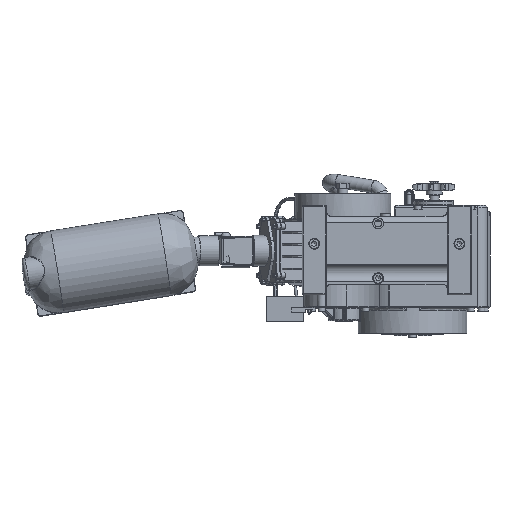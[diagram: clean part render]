
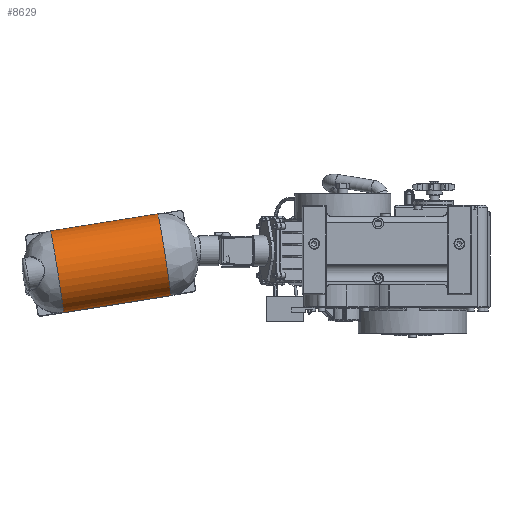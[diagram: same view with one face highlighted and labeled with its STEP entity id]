
A CAD part, front view. The second image highlights one B-rep face of the part: STEP entity #8629.
In plain terms, the highlighted cylindrical face has radius 65 mm (diameter 130 mm), a partial arc.
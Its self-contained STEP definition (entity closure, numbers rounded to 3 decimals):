
#8629=ADVANCED_FACE('',(#17896),#17897,.T.);
#17896=FACE_OUTER_BOUND('',#41852,.T.);
#17897=CYLINDRICAL_SURFACE('',#41853,65.0);
#41852=EDGE_LOOP('',(#67883,#67884,#67885,#67886));
#41853=AXIS2_PLACEMENT_3D('',#67887,#67888,#67889);
#67883=ORIENTED_EDGE('',*,*,#80331,.T.);
#67884=ORIENTED_EDGE('',*,*,#80332,.T.);
#67885=ORIENTED_EDGE('',*,*,#80290,.T.);
#67886=ORIENTED_EDGE('',*,*,#80333,.T.);
#67887=CARTESIAN_POINT('',(0.0,0.0,-135.0));
#67888=DIRECTION('',(0.0,0.0,1.0));
#67889=DIRECTION('',(1.0,0.0,0.0));
#80290=EDGE_CURVE('',#94090,#94035,#94091,.T.);
#80331=EDGE_CURVE('',#94017,#94152,#94153,.T.);
#80332=EDGE_CURVE('',#94152,#94090,#94154,.T.);
#80333=EDGE_CURVE('',#94035,#94017,#94155,.T.);
#94017=VERTEX_POINT('',#123141);
#94035=VERTEX_POINT('',#123188);
#94090=VERTEX_POINT('',#123338);
#94091=CIRCLE('',#123339,65.0);
#94152=VERTEX_POINT('',#123599);
#94153=CIRCLE('',#123600,65.0);
#94154=LINE('',#123601,#123602);
#94155=LINE('',#123603,#123604);
#123141=CARTESIAN_POINT('',(64.98,-1.629,85.0));
#123188=CARTESIAN_POINT('',(64.98,-1.629,-85.0));
#123338=CARTESIAN_POINT('',(-64.98,-1.629,-85.0));
#123339=AXIS2_PLACEMENT_3D('',#137707,#137708,#137709);
#123599=CARTESIAN_POINT('',(-64.98,-1.629,85.0));
#123600=AXIS2_PLACEMENT_3D('',#137761,#137762,#137763);
#123601=CARTESIAN_POINT('',(-64.98,-1.629,-135.0));
#123602=VECTOR('',#137764,1.0);
#123603=CARTESIAN_POINT('',(64.98,-1.629,-135.0));
#123604=VECTOR('',#137765,1.0);
#137707=CARTESIAN_POINT('',(0.0,0.0,-85.0));
#137708=DIRECTION('',(0.0,0.0,1.0));
#137709=DIRECTION('',(1.0,0.0,0.0));
#137761=CARTESIAN_POINT('',(0.0,0.0,85.0));
#137762=DIRECTION('',(0.0,0.0,-1.0));
#137763=DIRECTION('',(1.0,0.0,0.0));
#137764=DIRECTION('',(0.0,0.0,-1.0));
#137765=DIRECTION('',(0.0,0.0,1.0));
